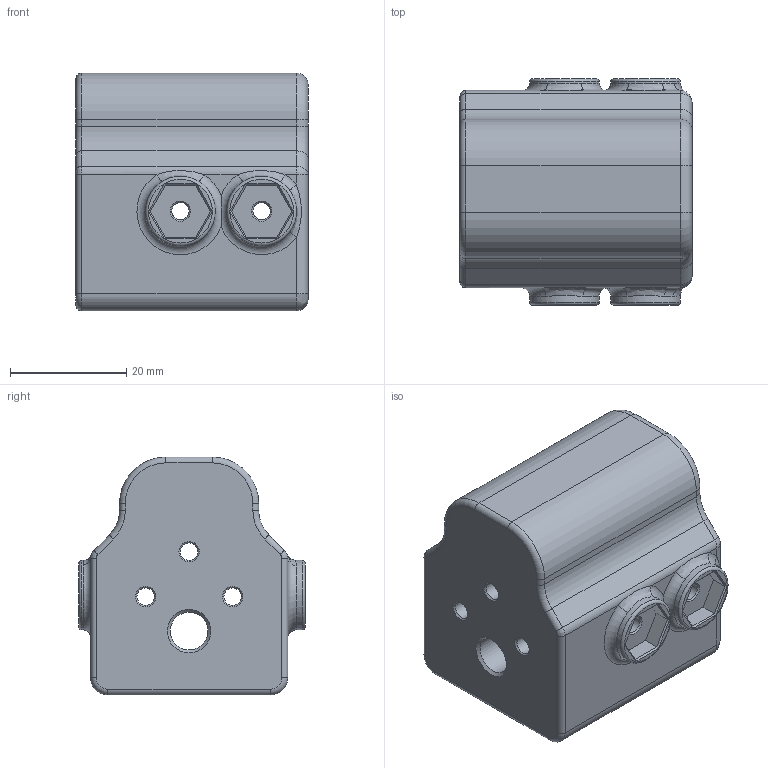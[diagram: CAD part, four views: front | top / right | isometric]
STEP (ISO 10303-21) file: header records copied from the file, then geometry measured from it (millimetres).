
FILE_DESCRIPTION(/* description */ (''),/* implementation_level */ '2;1');
FILE_NAME(/* name */ 'D:/Downloads/FreeMansGhettoBlaster/FreeMansGhettoBlaster/STEP/Brace Adapter.step',/* time_stamp */ '2019-04-30T10:08:27-05:00',/* author */ (''),/* organization */ (''),/* preprocessor_version */ 'ST-DEVELOPER v18',/* originating_system */ 'Autodesk Translation Framework v8.2.0.1029',/* authorisation */ '');
FILE_SCHEMA (('AUTOMOTIVE_DESIGN { 1 0 10303 214 3 1 1 }'));
Length unit declared in the file: millimetre
Products named in the file (1): Brace Adapter
Bounding box: 40 x 39 x 41 mm (x, y, z)
Volume: 31534.5 mm3; surface area: 11315.6 mm2
Topology: 1 solids, 1 shells, 159 faces, 385 edges, 231 vertices
Faces by surface type: plane 50, cylinder 42, torus 25, bspline 23, cone 17, sphere 2
Full cylindrical faces by diameter (mm): 3 x7, 6.5 x1, 10 x5, 12 x4, 26 x1
Entity records: 6864 total; most frequent: CARTESIAN_POINT 3086, DIRECTION 811, ORIENTED_EDGE 770, EDGE_CURVE 385, AXIS2_PLACEMENT_3D 329, VERTEX_POINT 231, CIRCLE 189, EDGE_LOOP 178
